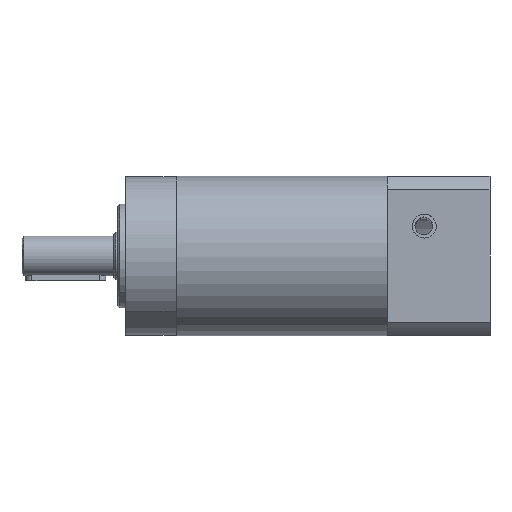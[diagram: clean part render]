
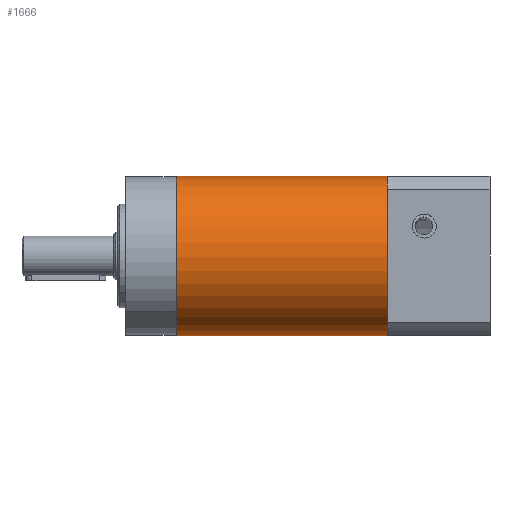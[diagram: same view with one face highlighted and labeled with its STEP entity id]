
A CAD part, left-side view. The second image highlights one B-rep face of the part: STEP entity #1666.
In plain terms, the highlighted cylindrical face has radius 20 mm (diameter 40 mm), a partial arc.
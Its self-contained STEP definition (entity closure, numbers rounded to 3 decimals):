
#128 = VERTEX_POINT ( 'NONE', #3549 ) ;
#268 = ORIENTED_EDGE ( 'NONE', *, *, #472, .T. ) ;
#288 = DIRECTION ( 'NONE',  ( 0., -1., 0. ) ) ;
#302 = EDGE_CURVE ( 'NONE', #851, #2845, #1031, .T. ) ;
#394 = CARTESIAN_POINT ( 'NONE',  ( -0.173, 78.8, 19.999 ) ) ;
#472 = EDGE_CURVE ( 'NONE', #128, #2737, #2863, .T. ) ;
#667 = DIRECTION ( 'NONE',  ( 0., 1., 0. ) ) ;
#807 = CARTESIAN_POINT ( 'NONE',  ( -0.173, 78.8, 19.999 ) ) ;
#851 = VERTEX_POINT ( 'NONE', #3345 ) ;
#864 = ORIENTED_EDGE ( 'NONE', *, *, #1326, .T. ) ;
#1031 = CIRCLE ( 'NONE', #2175, 20. ) ;
#1061 = AXIS2_PLACEMENT_3D ( 'NONE', #3829, #288, #1227 ) ;
#1130 = CARTESIAN_POINT ( 'NONE',  ( -0.173, 25.8, 19.999 ) ) ;
#1227 = DIRECTION ( 'NONE',  ( 0.009, 0., -1. ) ) ;
#1326 = EDGE_CURVE ( 'NONE', #851, #128, #1469, .T. ) ;
#1433 = AXIS2_PLACEMENT_3D ( 'NONE', #3093, #3367, #4069 ) ;
#1469 = LINE ( 'NONE', #1690, #2736 ) ;
#1666 = ADVANCED_FACE ( 'NONE', ( #2177 ), #3096, .T. ) ;
#1690 = CARTESIAN_POINT ( 'NONE',  ( 0.173, 78.8, -19.999 ) ) ;
#1765 = ORIENTED_EDGE ( 'NONE', *, *, #3901, .F. ) ;
#1935 = DIRECTION ( 'NONE',  ( -0.009, 0., 1. ) ) ;
#1940 = ORIENTED_EDGE ( 'NONE', *, *, #302, .F. ) ;
#2175 = AXIS2_PLACEMENT_3D ( 'NONE', #3555, #667, #1935 ) ;
#2177 = FACE_OUTER_BOUND ( 'NONE', #3144, .T. ) ;
#2736 = VECTOR ( 'NONE', #3620, 1000. ) ;
#2737 = VERTEX_POINT ( 'NONE', #1130 ) ;
#2845 = VERTEX_POINT ( 'NONE', #807 ) ;
#2863 = CIRCLE ( 'NONE', #1433, 20. ) ;
#2874 = LINE ( 'NONE', #394, #3559 ) ;
#3093 = CARTESIAN_POINT ( 'NONE',  ( 0., 25.8, 0. ) ) ;
#3096 = CYLINDRICAL_SURFACE ( 'NONE', #1061, 20. ) ;
#3144 = EDGE_LOOP ( 'NONE', ( #1765, #1940, #864, #268 ) ) ;
#3345 = CARTESIAN_POINT ( 'NONE',  ( 0.173, 78.8, -19.999 ) ) ;
#3367 = DIRECTION ( 'NONE',  ( 0., 1., 0. ) ) ;
#3549 = CARTESIAN_POINT ( 'NONE',  ( 0.173, 25.8, -19.999 ) ) ;
#3555 = CARTESIAN_POINT ( 'NONE',  ( 0., 78.8, 0. ) ) ;
#3559 = VECTOR ( 'NONE', #3641, 1000. ) ;
#3620 = DIRECTION ( 'NONE',  ( 0., -1., 0. ) ) ;
#3641 = DIRECTION ( 'NONE',  ( 0., -1., 0. ) ) ;
#3829 = CARTESIAN_POINT ( 'NONE',  ( 0., 78.8, 0. ) ) ;
#3901 = EDGE_CURVE ( 'NONE', #2845, #2737, #2874, .T. ) ;
#4069 = DIRECTION ( 'NONE',  ( -0.009, 0., 1. ) ) ;
